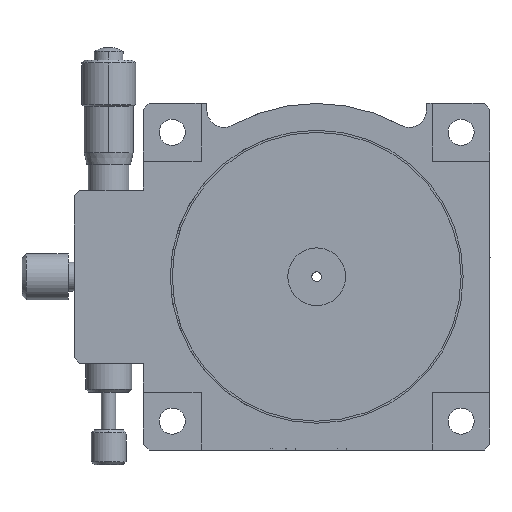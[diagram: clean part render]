
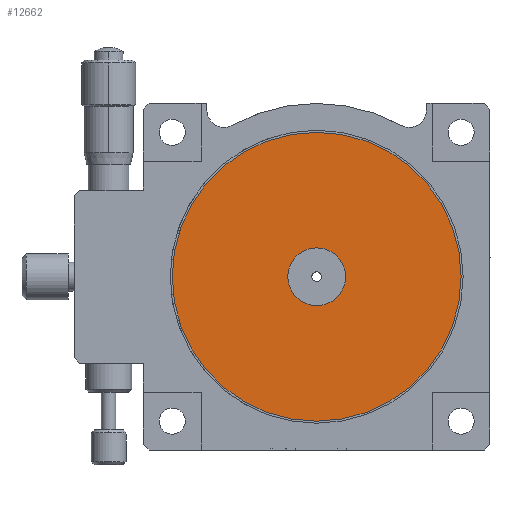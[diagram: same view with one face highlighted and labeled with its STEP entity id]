
A CAD part, front view. The second image highlights one B-rep face of the part: STEP entity #12662.
In plain terms, the highlighted planar face has unit normal (0, -1, 0).
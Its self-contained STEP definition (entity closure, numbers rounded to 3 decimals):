
#703 = CARTESIAN_POINT ( 'NONE',  ( 4.164, -16.852, 0. ) ) ;
#979 = AXIS2_PLACEMENT_3D ( 'NONE', #20261, #23090, #20145 ) ;
#1077 = VERTEX_POINT ( 'NONE', #14116 ) ;
#1398 = VERTEX_POINT ( 'NONE', #11031 ) ;
#1801 = CIRCLE ( 'NONE', #18648, 25. ) ;
#2053 = ORIENTED_EDGE ( 'NONE', *, *, #31277, .T. ) ;
#4110 = EDGE_CURVE ( 'NONE', #25242, #1077, #30624, .T. ) ;
#4446 = DIRECTION ( 'NONE',  ( -1., 0., 0. ) ) ;
#5035 = ORIENTED_EDGE ( 'NONE', *, *, #23960, .T. ) ;
#5349 = DIRECTION ( 'NONE',  ( 0., -1., 0. ) ) ;
#5562 = CARTESIAN_POINT ( 'NONE',  ( 9.164, -16.852, 0. ) ) ;
#5649 = EDGE_CURVE ( 'NONE', #1398, #11493, #1801, .T. ) ;
#7935 = CIRCLE ( 'NONE', #23768, 5. ) ;
#8996 = CARTESIAN_POINT ( 'NONE',  ( 9.164, -16.852, 0. ) ) ;
#9191 = ORIENTED_EDGE ( 'NONE', *, *, #4110, .T. ) ;
#9789 = PLANE ( 'NONE',  #13072 ) ;
#11031 = CARTESIAN_POINT ( 'NONE',  ( -15.836, -16.852, 0. ) ) ;
#11493 = VERTEX_POINT ( 'NONE', #13445 ) ;
#11919 = EDGE_LOOP ( 'NONE', ( #26423, #2053 ) ) ;
#12662 = ADVANCED_FACE ( 'NONE', ( #15609, #22104 ), #9789, .T. ) ;
#12920 = EDGE_LOOP ( 'NONE', ( #9191, #5035 ) ) ;
#12932 = CIRCLE ( 'NONE', #28822, 25. ) ;
#13066 = DIRECTION ( 'NONE',  ( 0., 1., 0. ) ) ;
#13072 = AXIS2_PLACEMENT_3D ( 'NONE', #26538, #29026, #23981 ) ;
#13185 = DIRECTION ( 'NONE',  ( -1., 0., 0. ) ) ;
#13445 = CARTESIAN_POINT ( 'NONE',  ( 34.164, -16.852, 0. ) ) ;
#14116 = CARTESIAN_POINT ( 'NONE',  ( 14.164, -16.852, 0. ) ) ;
#15609 = FACE_OUTER_BOUND ( 'NONE', #11919, .T. ) ;
#16343 = DIRECTION ( 'NONE',  ( 0., -1., 0. ) ) ;
#18648 = AXIS2_PLACEMENT_3D ( 'NONE', #8996, #16343, #4446 ) ;
#20145 = DIRECTION ( 'NONE',  ( -1., 0., 0. ) ) ;
#20261 = CARTESIAN_POINT ( 'NONE',  ( 9.164, -16.852, 0. ) ) ;
#20385 = DIRECTION ( 'NONE',  ( -1., 0., 0. ) ) ;
#22104 = FACE_BOUND ( 'NONE', #12920, .T. ) ;
#23090 = DIRECTION ( 'NONE',  ( 0., 1., 0. ) ) ;
#23768 = AXIS2_PLACEMENT_3D ( 'NONE', #25743, #13066, #20385 ) ;
#23960 = EDGE_CURVE ( 'NONE', #1077, #25242, #7935, .T. ) ;
#23981 = DIRECTION ( 'NONE',  ( 1., 0., 0. ) ) ;
#25242 = VERTEX_POINT ( 'NONE', #703 ) ;
#25743 = CARTESIAN_POINT ( 'NONE',  ( 9.164, -16.852, 0. ) ) ;
#26423 = ORIENTED_EDGE ( 'NONE', *, *, #5649, .T. ) ;
#26538 = CARTESIAN_POINT ( 'NONE',  ( 9.164, -16.852, 0. ) ) ;
#28822 = AXIS2_PLACEMENT_3D ( 'NONE', #5562, #5349, #13185 ) ;
#29026 = DIRECTION ( 'NONE',  ( 0., -1., 0. ) ) ;
#30624 = CIRCLE ( 'NONE', #979, 5. ) ;
#31277 = EDGE_CURVE ( 'NONE', #11493, #1398, #12932, .T. ) ;
